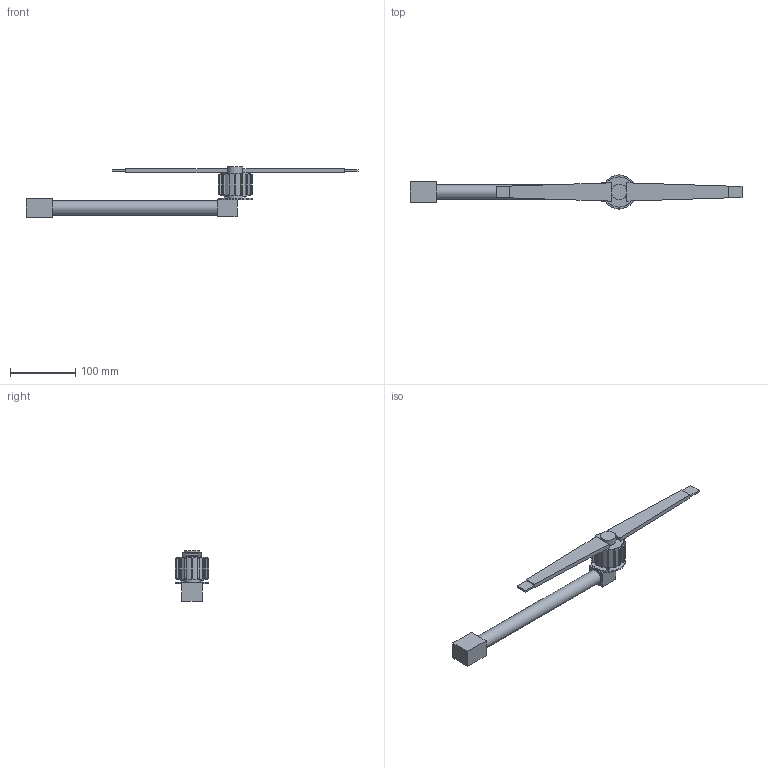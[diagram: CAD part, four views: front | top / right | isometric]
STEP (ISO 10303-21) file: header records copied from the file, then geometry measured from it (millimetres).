
FILE_DESCRIPTION(('FreeCAD Model'),'2;1');
FILE_NAME('Open CASCADE Shape Model','2026-10-22T00:32:18',('Author'),( ''),'Open CASCADE STEP processor 7.8','FreeCAD','Unknown');
FILE_SCHEMA(('AUTOMOTIVE_DESIGN { 1 0 10303 214 1 1 1 1 }'));
Length unit declared in the file: millimetre
Products named in the file (19): Arm 1.2.0; Root clamp; Tube; Motor mount; Motor 1.1.0; Flange; Neck; Stator with cooling fins; Small propeller 1.2.0; Hub; Blade; Blade tip; Blade 2; Blade tip 2; Fasteners 1.1.0; Screw head M3; Screw head M3 2; Screw head M3 3; Screw head M3 4
Assembly tree (18 placements, depth 3):
  Arm 1.2.0
    Root clamp
    Tube
    Motor mount
    Motor 1.1.0
      Flange
      Neck
      Stator with cooling fins
    Small propeller 1.2.0
      Hub
      Blade
      Blade tip
      Blade 2
      Blade tip 2
    Fasteners 1.1.0
      Screw head M3
      Screw head M3 2
      Screw head M3 3
      Screw head M3 4
Bounding box: 508 x 52 x 77 mm (x, y, z)
Volume: 272780.9 mm3; surface area: 69459.4 mm2
Topology: 15 solids, 15 shells, 143 faces, 294 edges, 196 vertices
Faces by surface type: plane 134, cylinder 9
Full cylindrical faces by diameter (mm): 4 x4, 22 x1, 24 x2, 46 x1, 52 x1
Entity records: 4046 total; most frequent: DIRECTION 670, CARTESIAN_POINT 652, ORIENTED_EDGE 588, EDGE_CURVE 294, LINE 242, VECTOR 242, AXIS2_PLACEMENT_3D 214, VERTEX_POINT 196
